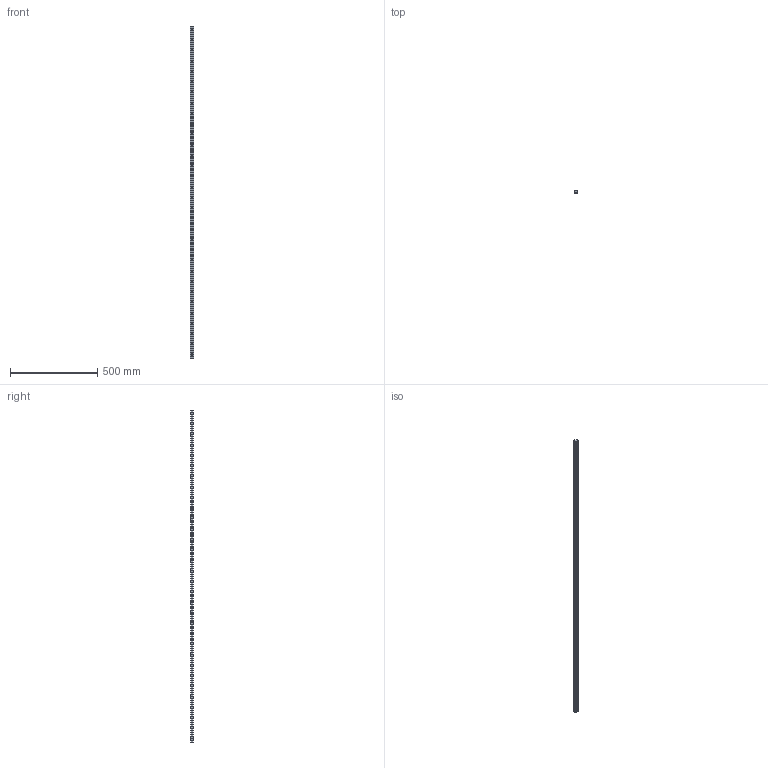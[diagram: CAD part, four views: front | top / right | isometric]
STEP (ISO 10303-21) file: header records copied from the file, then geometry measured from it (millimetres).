
FILE_DESCRIPTION (( 'STEP AP203' ), '1' );
FILE_NAME ('L1016.BL20-1900.step', '2019-06-12T11:51:01', ( '' ), ( '' ), 'SwSTEP 2.0', 'SolidWorks 2017', '' );
FILE_SCHEMA (( 'CONFIG_CONTROL_DESIGN' ));
Length unit declared in the file: millimetre
Products named in the file (1): L1016.BL20-1900
Bounding box: 20 x 16.3 x 1900 mm (x, y, z)
Volume: 528053.3 mm3; surface area: 153073 mm2
Topology: 1 solids, 1 shells, 186 faces, 456 edges, 304 vertices
Faces by surface type: cylinder 132, plane 54
Entity records: 5829 total; most frequent: DIRECTION 1094, CARTESIAN_POINT 947, ORIENTED_EDGE 912, EDGE_CURVE 456, AXIS2_PLACEMENT_3D 451, VERTEX_POINT 304, EDGE_LOOP 282, CIRCLE 264
